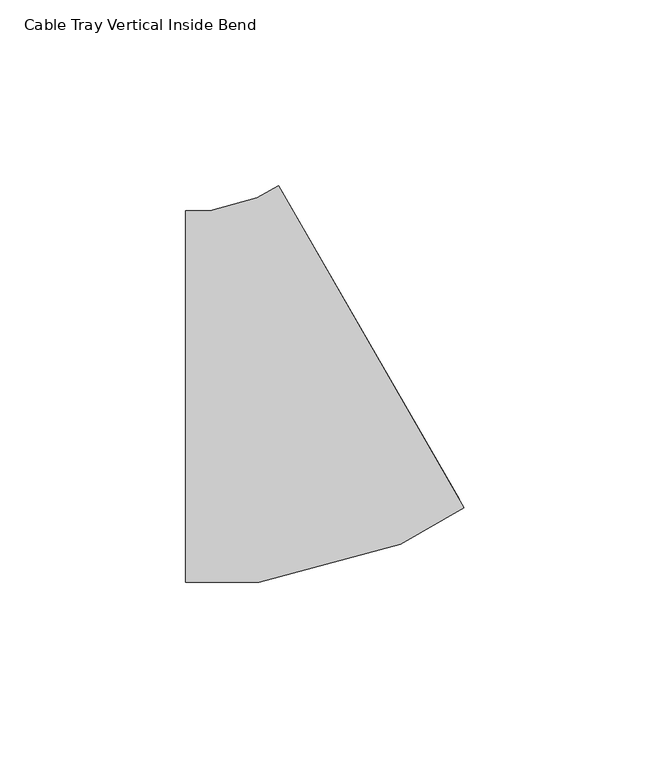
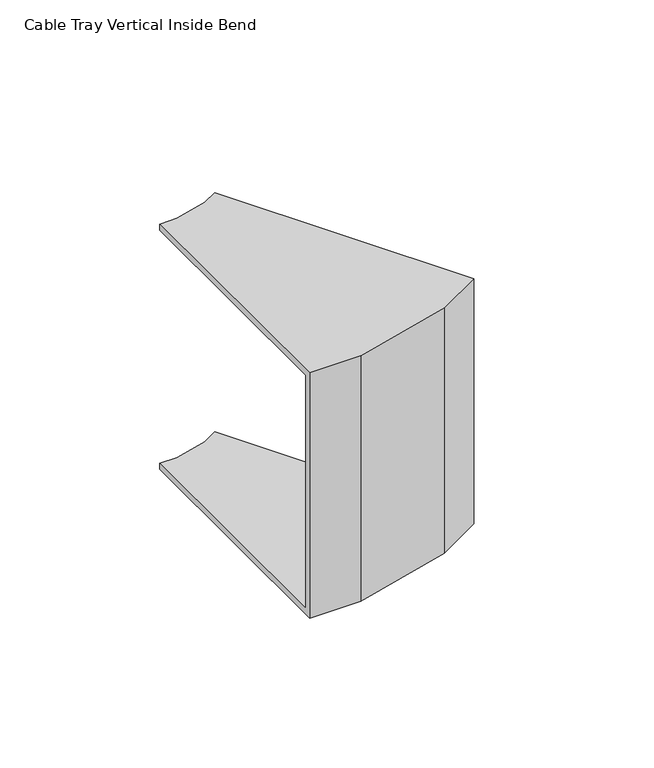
"""IFC4 building model written with IfcOpenShell, lengths in millimetres: cable carrier fitting geometry, Cable Tray Vertical Inside Bend : ELEC_ELV_TKG_N2402."""

from ifc_helpers import new_model, si_unit, origin, place, context, project, spatial, faceted_brep, source, transform, mapped, element, save


def cable_tray_vertical_inside_bend_28de77c7(model_context):
    return source(origin(), model_context, "Body", "Brep", [
        faceted_brep([(-26.7947413, 50.0, 50.0), (-26.7947413, 50.0, 47.46), (-26.7947413, -47.46, 47.46), (-26.7947413, -47.46, -47.46), (-26.7947413, 50.0, -47.46), (-26.7947413, 50.0, -50.0), (-26.7947413, -50.0, -50.0), (-26.7947413, -50.0, 50.0), (-1.7948851, 56.6986468, 50.0), (48.2048274, -29.9040595, 50.0), (48.2048274, -29.9040595, -50.0), (-1.7948851, 56.6986468, -50.0), (-1.7948851, 56.6986468, -47.46), (46.9348347, -27.7043508, -47.46), (46.9348347, -27.7043508, 47.46), (-1.7948851, 56.6986468, 47.46), (-20.2121587, 50.0, 50.0), (-20.2121587, 50.0, 47.46), (-7.4955798, 53.4073744, 47.46), (30.1223458, -37.4109714, 47.46), (-7.3813885, -47.46, 47.46), (-7.3813885, -47.46, -47.46), (30.1223458, -37.4109714, -47.46), (-7.4955798, 53.4073744, -47.46), (-20.2121587, 50.0, -47.46), (-20.2121587, 50.0, -50.0), (-7.4955798, 53.4073744, -50.0), (31.1027432, -39.7778768, -50.0), (-7.0469934, -50.0, -50.0), (-7.0469934, -50.0, 50.0), (31.1027432, -39.7778768, 50.0), (-7.4955798, 53.4073744, 50.0)], [[[0, 1, 2, 3, 4, 5, 6, 7]], [[8, 9, 10, 11, 12, 13, 14, 15]], [[1, 0, 16, 17]], [[2, 1, 17, 18, 15, 14, 19, 20]], [[3, 2, 20, 21]], [[4, 3, 21, 22, 13, 12, 23, 24]], [[5, 4, 24, 25]], [[6, 5, 25, 26, 11, 10, 27, 28]], [[7, 6, 28, 29]], [[0, 7, 29, 30, 9, 8, 31, 16]], [[17, 16, 31, 18]], [[21, 20, 19, 22]], [[25, 24, 23, 26]], [[29, 28, 27, 30]], [[18, 31, 8, 15]], [[22, 19, 14, 13]], [[26, 23, 12, 11]], [[30, 27, 10, 9]]]),
    ])


if __name__ == "__main__":
    model = new_model("IFC4")
    model_context = context("Model", 3, world=origin())
    ifc_project = project(units=[si_unit("LENGTHUNIT", "METRE", prefix="MILLI")], contexts=[model_context])
    site = spatial("IfcSite", under=ifc_project)
    building = spatial("IfcBuilding", under=site)
    placement = place(None, origin())
    cable_tray_vertical_inside_bend_shape = cable_tray_vertical_inside_bend_28de77c7(model_context)
    element("IfcCableCarrierFitting", 1, ObjectType="Cable Tray Vertical Inside Bend : ELEC_ELV_TKG_N2402", at=placement, inside=building, context=model_context, shape_type="MappedRepresentation", body=[
        mapped(cable_tray_vertical_inside_bend_shape, transform((0.0, 0.0, 0.0), x_axis=(1.0, 0.0, 0.0), y_axis=(0.0, 1.0, 0.0), z_axis=(0.0, 0.0, 1.0))),
    ])
    save(model, "model.ifc")
